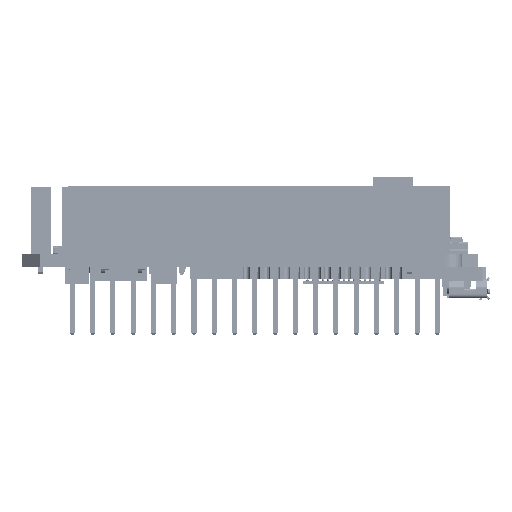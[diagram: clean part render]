
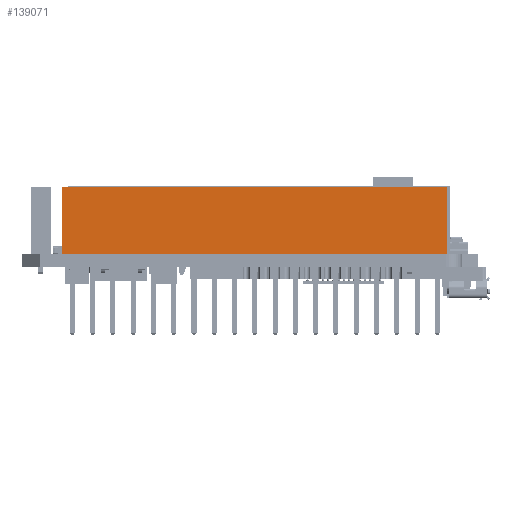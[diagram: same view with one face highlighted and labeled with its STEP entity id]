
A CAD part, left-side view. The second image highlights one B-rep face of the part: STEP entity #139071.
In plain terms, the highlighted planar face has unit normal (-1, 0, 0).
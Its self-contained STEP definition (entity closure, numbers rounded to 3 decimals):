
#138973 = EDGE_CURVE('',#138974,#138976,#138978,.T.);
#138974 = VERTEX_POINT('',#138975);
#138975 = CARTESIAN_POINT('',(-2.545,24.132,0.));
#138976 = VERTEX_POINT('',#138977);
#138977 = CARTESIAN_POINT('',(-2.545,24.132,8.38));
#138978 = LINE('',#138979,#138980);
#138979 = CARTESIAN_POINT('',(-2.545,24.132,0.));
#138980 = VECTOR('',#138981,1.);
#138981 = DIRECTION('',(0.,0.,1.));
#139046 = VERTEX_POINT('',#139047);
#139047 = CARTESIAN_POINT('',(-2.545,-24.132,8.38));
#139053 = EDGE_CURVE('',#139054,#139046,#139056,.T.);
#139054 = VERTEX_POINT('',#139055);
#139055 = CARTESIAN_POINT('',(-2.545,-24.132,0.));
#139056 = LINE('',#139057,#139058);
#139057 = CARTESIAN_POINT('',(-2.545,-24.132,0.));
#139058 = VECTOR('',#139059,1.);
#139059 = DIRECTION('',(0.,0.,1.));
#139071 = ADVANCED_FACE('',(#139072),#139088,.T.);
#139072 = FACE_BOUND('',#139073,.T.);
#139073 = EDGE_LOOP('',(#139074,#139075,#139081,#139082));
#139074 = ORIENTED_EDGE('',*,*,#139053,.T.);
#139075 = ORIENTED_EDGE('',*,*,#139076,.T.);
#139076 = EDGE_CURVE('',#139046,#138976,#139077,.T.);
#139077 = LINE('',#139078,#139079);
#139078 = CARTESIAN_POINT('',(-2.545,-24.132,8.38));
#139079 = VECTOR('',#139080,1.);
#139080 = DIRECTION('',(0.,1.,0.));
#139081 = ORIENTED_EDGE('',*,*,#138973,.F.);
#139082 = ORIENTED_EDGE('',*,*,#139083,.F.);
#139083 = EDGE_CURVE('',#139054,#138974,#139084,.T.);
#139084 = LINE('',#139085,#139086);
#139085 = CARTESIAN_POINT('',(-2.545,-24.132,0.));
#139086 = VECTOR('',#139087,1.);
#139087 = DIRECTION('',(0.,1.,0.));
#139088 = PLANE('',#139089);
#139089 = AXIS2_PLACEMENT_3D('',#139090,#139091,#139092);
#139090 = CARTESIAN_POINT('',(-2.545,-24.132,0.));
#139091 = DIRECTION('',(-1.,0.,0.));
#139092 = DIRECTION('',(0.,1.,0.));
